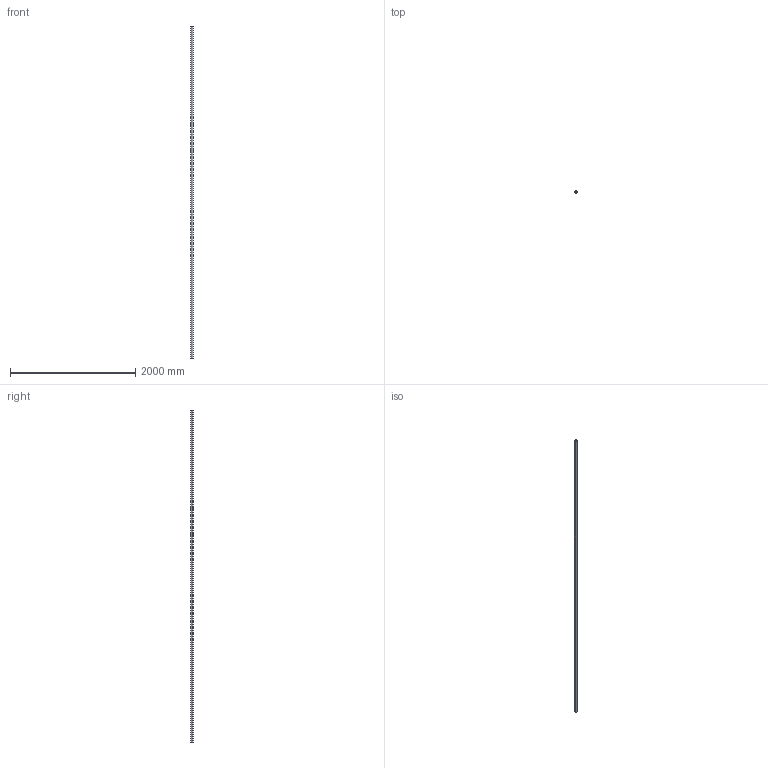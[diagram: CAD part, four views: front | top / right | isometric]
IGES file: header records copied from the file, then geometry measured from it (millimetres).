
Start section: SolidWorks IGES file using analytic representation for surfaces
Global section: file name: C:\Users\IanO\Desktop\L1771_v2\L1771.40_v2\L1771.40_v2_20230705_IGES\L1771.40-5300.igs; native system: SolidWorks 2019; preprocessor: SolidWorks 2019; author: IanO; date: 230705.163044; units: millimetre
Bounding box: 40 x 40 x 5300 mm (x, y, z)
Surface area: 1133511.8 mm2 (no closed solid volume)
Topology: 0 solids, 0 shells, 6 faces, 272 edges, 272 vertices
Faces by surface type: revolution 4, bspline 2
